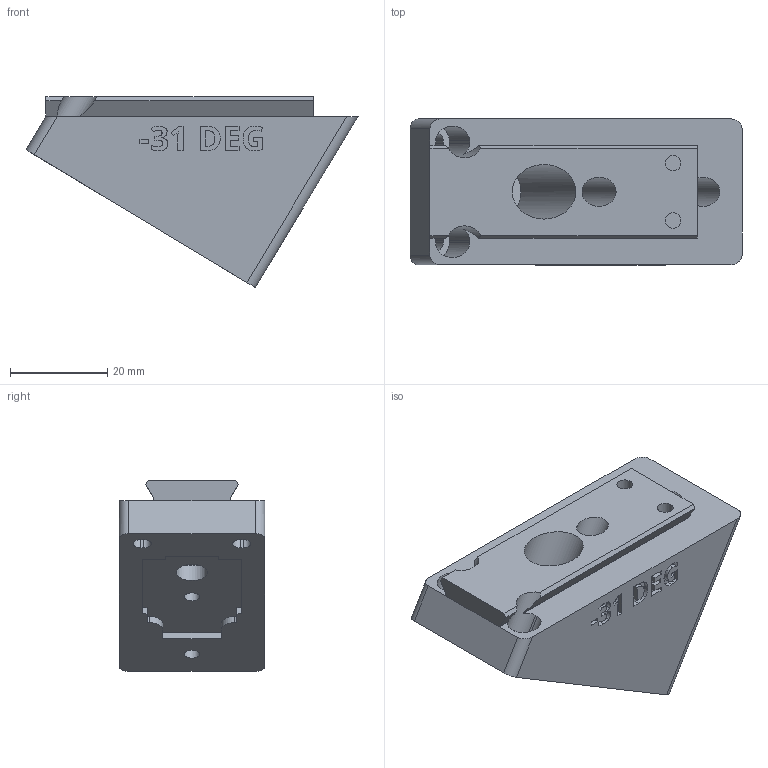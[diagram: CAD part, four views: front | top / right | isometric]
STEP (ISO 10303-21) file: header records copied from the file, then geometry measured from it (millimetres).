
FILE_DESCRIPTION(/* description */ ('STEP AP242 Edition 2','CAx-IF Rec.Pracs.---Representation and Presentation of Product Manufacturing Information (PMI)---4.0---2014-10-13','CAx-IF Rec.Pracs.---3D Tessellated Geometry---0.4---2014-09-14','2;1','CAx-IF Rec.Pracs.---User Defined Attributes---1.5---2016-08-15'),/* implementation_level */ '2;1');
FILE_NAME(/* name */ 'Camera Wedges - CAMERA MOUNTING WEDGE, NEG, -31 DEG',/* time_stamp */ '2026-08-11T00:07:52Z',/* author */ (''),/* organization */ (''),/* preprocessor_version */ 'ST-DEVELOPER v20',/* originating_system */ 'ONSHAPE BY PTC INC, 1.219',/* authorisation */ ' ');
FILE_SCHEMA (('AP242_MANAGED_MODEL_BASED_3D_ENGINEERING_MIM_LF { 1 0 10303 442 3 1 4 }'));
Length unit declared in the file: metre
Products named in the file (1): CAMERA MOUNTING WEDGE, NEG, -31 DEG
Bounding box: 68.26 x 30 x 39.24 mm (x, y, z)
Volume: 38964.3 mm3; surface area: 10986.1 mm2
Topology: 1 solids, 1 shells, 259 faces, 712 edges, 474 vertices
Faces by surface type: plane 151, bspline 66, cylinder 42
Full cylindrical faces by diameter (mm): 3.2 x4, 6 x2, 6.4 x1, 11.2 x1
Entity records: 8404 total; most frequent: CARTESIAN_POINT 2162, ORIENTED_EDGE 1406, DIRECTION 1056, EDGE_CURVE 703, LINE 474, VECTOR 474, VERTEX_POINT 473, EDGE_LOOP 296
